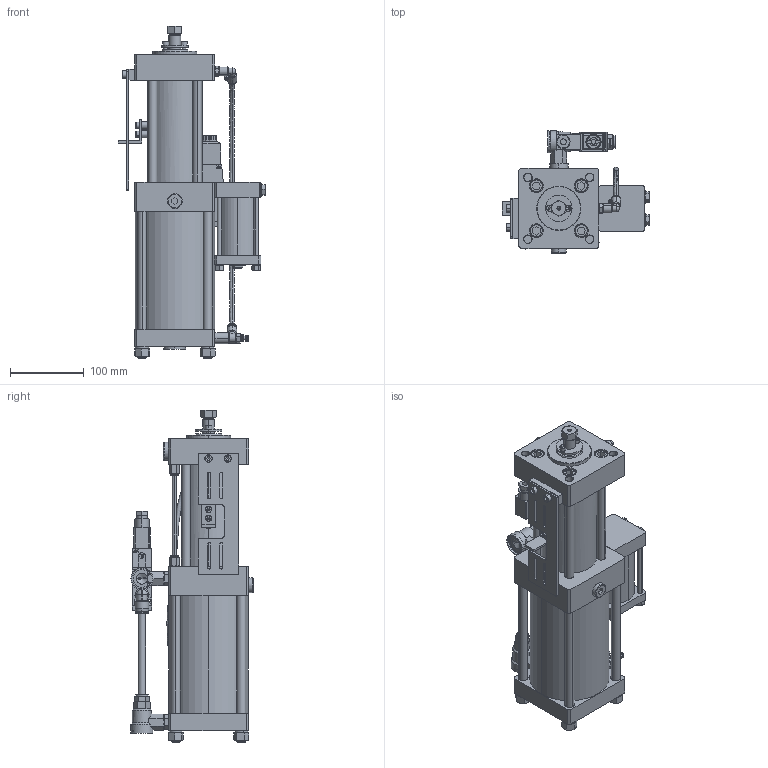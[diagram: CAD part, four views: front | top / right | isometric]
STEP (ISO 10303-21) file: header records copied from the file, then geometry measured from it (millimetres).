
FILE_DESCRIPTION (( 'STEP AP203' ), '1' );
FILE_NAME ('PCT3 10036 VC15.STEP', '2017-12-05T06:33:07', ( '' ), ( '' ), 'SwSTEP 2.0', 'SolidWorks 2015', '' );
FILE_SCHEMA (( 'CONFIG_CONTROL_DESIGN' ));
Length unit declared in the file: millimetre
Products named in the file (39): 18Janatics-Male elbow_Male threaded nipple_Dia 6 x 18; Janatics-WN015152WN015152_WN015152; hexagon fit bolt_is_IS 3640 - M8 x 25 x 14.5-N; INT FEC; 18Janatics-Male elbow_elbow_DIA 6; Janatics-WN015151WN015151_WN015151; QEV; INT TR; 18Janatics-Male elbow_Collet cap_DIA 6; DC VALVE-Janatics-DEFAULT_DS255SR61; (normal) internal_is_IS 3075(Part2) NI- 26; spring lock washer 6735_is_IS 6735- 6; PCT CYL_PCT3 10036 VC15; 1 8 BSP FCV-Janatics-GR2_GR1105006; Janatics-Male elbow_elbow_DIA 10; 1 4 BSP QEV; hexagon nut_is_IS 1363-2 - M6-N; socket head cap screw_is_IS 2269 - M5 x 8-N; Part3^PCT; Janatics-Male elbow_Collet cap_DIA 10; Janatics-Male connector_housing MC_WP2110650; 3 8 BSP PLUG; socket head cap screw_is_IS 2269 - M6 x 10-N; Part4^PCT; Janatics-Male elbow_Male threaded nipple_Dia 10 x 14; Janatics-Male connector_Collet cap_DIA 6; SILENCER; INT REC; spring lock washer 6735_is_IS 6735- 12; Janatics-Male elbow_Male elbow; 1 8 BSP PU 6_Janatics-Male connector_Male connector; CONTAINER PRA-03; GASKET; hexagon nut style 1_is_IS 1364-3 - M12-W-N; Part1^PCT; Part2^PCT; plain washer (type a)_is_IS 2016 A- 9; INT TUBE; PCT3 10036 VC15
Assembly tree (69 placements, depth 3):
  Part3^PCT
  PCT3 10036 VC15
    PCT CYL_PCT3 10036 VC15
    socket head cap screw_is_IS 2269 - M5 x 8-N  x4
    socket head cap screw_is_IS 2269 - M6 x 10-N  x2
    CONTAINER PRA-03
      INT REC
      GASKET  x2
      INT TUBE
      INT FEC
      INT TR  x4
      spring lock washer 6735_is_IS 6735- 6  x4
      hexagon nut_is_IS 1363-2 - M6-N  x4
      3 8 BSP PLUG
      SILENCER
    plain washer (type a)_is_IS 2016 A- 9  x2
    hexagon fit bolt_is_IS 3640 - M8 x 25 x 14.5-N  x2
    1 4 BSP QEV
      QEV
      (normal) internal_is_IS 3075(Part2) NI- 26
    QEV
    1 8 BSP PU 6_Janatics-Male connector_Male connector  x2
      Janatics-Male connector_housing MC_WP2110650
      Janatics-Male connector_Collet cap_DIA 6
    Part2^PCT
    Janatics-WN015152WN015152_WN015152  x2
    Janatics-WN015151WN015151_WN015151
    DC VALVE-Janatics-DEFAULT_DS255SR61
    (normal) internal_is_IS 3075(Part2) NI- 26
    Janatics-Male elbow_Male elbow
      Janatics-Male elbow_elbow_DIA 10
      Janatics-Male elbow_Collet cap_DIA 10
      Janatics-Male elbow_Male threaded nipple_Dia 10 x 14
    Janatics-Male elbow_Collet cap_DIA 10  x2
    Janatics-Male elbow_Male threaded nipple_Dia 10 x 14  x2
    Part1^PCT
    SILENCER  x2
    18Janatics-Male elbow_Male threaded nipple_Dia 6 x 18
    18Janatics-Male elbow_elbow_DIA 6
    18Janatics-Male elbow_Collet cap_DIA 6
    1 8 BSP FCV-Janatics-GR2_GR1105006
    Part4^PCT
    spring lock washer 6735_is_IS 6735- 12  x4
    hexagon nut style 1_is_IS 1364-3 - M12-W-N  x4
Bounding box: 200.6 x 166 x 451 mm (x, y, z)
Volume: 3776897.2 mm3; surface area: 533473.9 mm2
Topology: 87 solids, 88 shells, 4349 faces, 10948 edges, 6919 vertices
Faces by surface type: plane 1938, cylinder 1348, cone 726, torus 177, bspline 145, sphere 15
Entity records: 107498 total; most frequent: CARTESIAN_POINT 25737, ORIENTED_EDGE 16104, DIRECTION 15987, EDGE_CURVE 8052, AXIS2_PLACEMENT_3D 5844, VERTEX_POINT 5148, LINE 4299, VECTOR 4299
